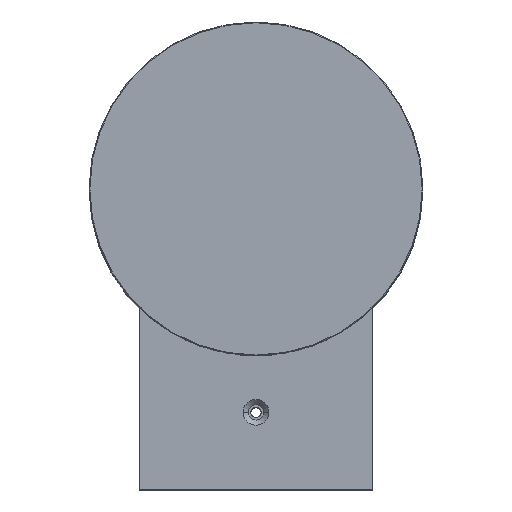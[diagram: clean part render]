
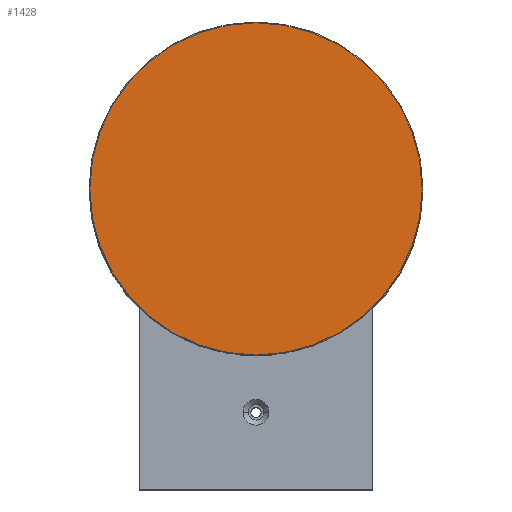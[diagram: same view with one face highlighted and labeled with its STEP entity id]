
A CAD part, top view. The second image highlights one B-rep face of the part: STEP entity #1428.
In plain terms, the highlighted planar face has unit normal (0, 0, 1).
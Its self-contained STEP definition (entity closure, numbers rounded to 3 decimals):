
#1265=CARTESIAN_POINT('',(0.,0.,108.));
#1266=DIRECTION('',(0.,0.,1.));
#1267=DIRECTION('',(1.,0.,0.));
#1268=AXIS2_PLACEMENT_3D('',#1265,#1266,#1267);
#1270=CARTESIAN_POINT('',(0.,0.,108.));
#1271=DIRECTION('',(0.,0.,1.));
#1272=DIRECTION('',(-1.,0.,0.));
#1273=AXIS2_PLACEMENT_3D('',#1270,#1271,#1272);
#1399=CARTESIAN_POINT('',(-64.7,0.,108.));
#1400=CARTESIAN_POINT('',(64.7,0.,108.));
#1401=VERTEX_POINT('',#1399);
#1402=VERTEX_POINT('',#1400);
#1417=CARTESIAN_POINT('',(0.,0.,108.));
#1418=DIRECTION('',(0.,0.,-1.));
#1419=DIRECTION('',(-1.,0.,0.));
#1420=AXIS2_PLACEMENT_3D('',#1417,#1418,#1419);
#1421=PLANE('',#1420);
#1423=ORIENTED_EDGE('',*,*,#1422,.F.);
#1425=ORIENTED_EDGE('',*,*,#1424,.F.);
#1426=EDGE_LOOP('',(#1423,#1425));
#1427=FACE_OUTER_BOUND('',#1426,.F.);
#1428=ADVANCED_FACE('',(#1427),#1421,.F.);
#1269=CIRCLE('',#1268,64.7);
#1274=CIRCLE('',#1273,64.7);
#1422=EDGE_CURVE('',#1402,#1401,#1269,.T.);
#1424=EDGE_CURVE('',#1401,#1402,#1274,.T.);
